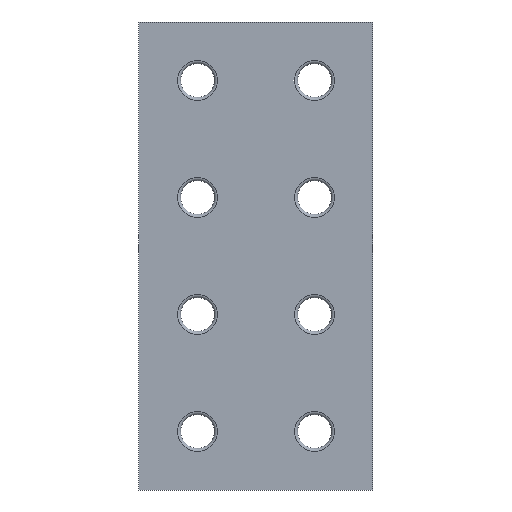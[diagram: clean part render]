
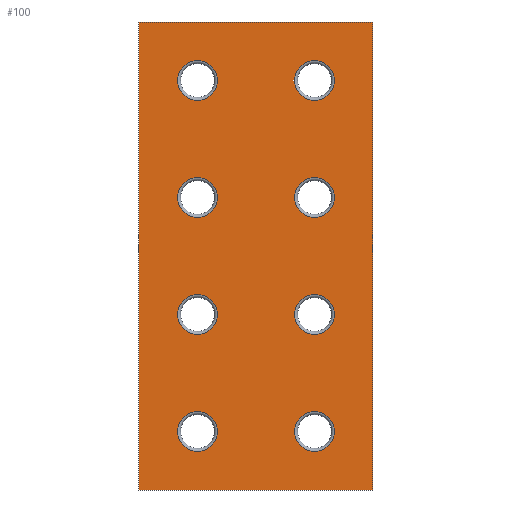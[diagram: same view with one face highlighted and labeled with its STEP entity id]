
A CAD part, left-side view. The second image highlights one B-rep face of the part: STEP entity #100.
In plain terms, the highlighted planar face has unit normal (-1, 0, 0).
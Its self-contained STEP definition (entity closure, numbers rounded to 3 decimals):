
#100 = ADVANCED_FACE( '', ( #237, #238, #239, #240, #241, #242, #243, #244, #245 ), #246, .F. );
#237 = FACE_BOUND( '', #438, .T. );
#238 = FACE_BOUND( '', #439, .T. );
#239 = FACE_BOUND( '', #440, .T. );
#240 = FACE_BOUND( '', #441, .T. );
#241 = FACE_BOUND( '', #442, .T. );
#242 = FACE_BOUND( '', #443, .T. );
#243 = FACE_BOUND( '', #444, .T. );
#244 = FACE_BOUND( '', #445, .T. );
#245 = FACE_OUTER_BOUND( '', #446, .T. );
#246 = PLANE( '', #447 );
#438 = EDGE_LOOP( '', ( #669 ) );
#439 = EDGE_LOOP( '', ( #670 ) );
#440 = EDGE_LOOP( '', ( #671 ) );
#441 = EDGE_LOOP( '', ( #672 ) );
#442 = EDGE_LOOP( '', ( #673 ) );
#443 = EDGE_LOOP( '', ( #674 ) );
#444 = EDGE_LOOP( '', ( #675 ) );
#445 = EDGE_LOOP( '', ( #676 ) );
#446 = EDGE_LOOP( '', ( #677, #678, #679, #680 ) );
#447 = AXIS2_PLACEMENT_3D( '', #681, #682, #683 );
#669 = ORIENTED_EDGE( '', *, *, #890, .T. );
#670 = ORIENTED_EDGE( '', *, *, #923, .T. );
#671 = ORIENTED_EDGE( '', *, *, #924, .T. );
#672 = ORIENTED_EDGE( '', *, *, #925, .T. );
#673 = ORIENTED_EDGE( '', *, *, #926, .T. );
#674 = ORIENTED_EDGE( '', *, *, #927, .T. );
#675 = ORIENTED_EDGE( '', *, *, #903, .T. );
#676 = ORIENTED_EDGE( '', *, *, #928, .T. );
#677 = ORIENTED_EDGE( '', *, *, #929, .F. );
#678 = ORIENTED_EDGE( '', *, *, #930, .F. );
#679 = ORIENTED_EDGE( '', *, *, #906, .F. );
#680 = ORIENTED_EDGE( '', *, *, #898, .F. );
#681 = CARTESIAN_POINT( '', ( -160., 0., 0. ) );
#682 = DIRECTION( '', ( 1., 0., 0. ) );
#683 = DIRECTION( '', ( 0., 1., 0. ) );
#890 = EDGE_CURVE( '', #1003, #1003, #1004, .T. );
#898 = EDGE_CURVE( '', #1016, #1017, #1018, .T. );
#903 = EDGE_CURVE( '', #1025, #1025, #1026, .T. );
#906 = EDGE_CURVE( '', #1017, #1030, #1031, .T. );
#923 = EDGE_CURVE( '', #1057, #1057, #1058, .T. );
#924 = EDGE_CURVE( '', #1059, #1059, #1060, .T. );
#925 = EDGE_CURVE( '', #1061, #1061, #1062, .T. );
#926 = EDGE_CURVE( '', #1063, #1063, #1064, .T. );
#927 = EDGE_CURVE( '', #1065, #1065, #1066, .T. );
#928 = EDGE_CURVE( '', #1067, #1067, #1068, .T. );
#929 = EDGE_CURVE( '', #1069, #1016, #1070, .T. );
#930 = EDGE_CURVE( '', #1030, #1069, #1071, .T. );
#1003 = VERTEX_POINT( '', #1165 );
#1004 = CIRCLE( '', #1166, 5.96 );
#1016 = VERTEX_POINT( '', #1178 );
#1017 = VERTEX_POINT( '', #1179 );
#1018 = LINE( '', #1180, #1181 );
#1025 = VERTEX_POINT( '', #1191 );
#1026 = CIRCLE( '', #1192, 5.96 );
#1030 = VERTEX_POINT( '', #1196 );
#1031 = LINE( '', #1197, #1198 );
#1057 = VERTEX_POINT( '', #1226 );
#1058 = CIRCLE( '', #1227, 5.96 );
#1059 = VERTEX_POINT( '', #1228 );
#1060 = CIRCLE( '', #1229, 5.96 );
#1061 = VERTEX_POINT( '', #1230 );
#1062 = CIRCLE( '', #1231, 5.96 );
#1063 = VERTEX_POINT( '', #1232 );
#1064 = CIRCLE( '', #1233, 5.96 );
#1065 = VERTEX_POINT( '', #1234 );
#1066 = CIRCLE( '', #1235, 5.96 );
#1067 = VERTEX_POINT( '', #1236 );
#1068 = CIRCLE( '', #1237, 5.96 );
#1069 = VERTEX_POINT( '', #1238 );
#1070 = LINE( '', #1239, #1240 );
#1071 = LINE( '', #1241, #1242 );
#1165 = CARTESIAN_POINT( '', ( -160., -11.54, -52.5 ) );
#1166 = AXIS2_PLACEMENT_3D( '', #1341, #1342, #1343 );
#1178 = CARTESIAN_POINT( '', ( -160., -35., -70. ) );
#1179 = CARTESIAN_POINT( '', ( -160., 35., -70. ) );
#1180 = CARTESIAN_POINT( '', ( -160., -35., -70. ) );
#1181 = VECTOR( '', #1356, 1000. );
#1191 = CARTESIAN_POINT( '', ( -160., 23.46, 17.5 ) );
#1192 = AXIS2_PLACEMENT_3D( '', #1360, #1361, #1362 );
#1196 = CARTESIAN_POINT( '', ( -160., 35., 70. ) );
#1197 = CARTESIAN_POINT( '', ( -160., 35., -70. ) );
#1198 = VECTOR( '', #1366, 1000. );
#1226 = CARTESIAN_POINT( '', ( -160., -11.54, -17.5 ) );
#1227 = AXIS2_PLACEMENT_3D( '', #1393, #1394, #1395 );
#1228 = CARTESIAN_POINT( '', ( -160., -11.54, 17.5 ) );
#1229 = AXIS2_PLACEMENT_3D( '', #1396, #1397, #1398 );
#1230 = CARTESIAN_POINT( '', ( -160., -11.54, 52.5 ) );
#1231 = AXIS2_PLACEMENT_3D( '', #1399, #1400, #1401 );
#1232 = CARTESIAN_POINT( '', ( -160., 23.46, -52.5 ) );
#1233 = AXIS2_PLACEMENT_3D( '', #1402, #1403, #1404 );
#1234 = CARTESIAN_POINT( '', ( -160., 23.46, -17.5 ) );
#1235 = AXIS2_PLACEMENT_3D( '', #1405, #1406, #1407 );
#1236 = CARTESIAN_POINT( '', ( -160., 23.46, 52.5 ) );
#1237 = AXIS2_PLACEMENT_3D( '', #1408, #1409, #1410 );
#1238 = CARTESIAN_POINT( '', ( -160., -35., 70. ) );
#1239 = CARTESIAN_POINT( '', ( -160., -35., 70. ) );
#1240 = VECTOR( '', #1411, 1000. );
#1241 = CARTESIAN_POINT( '', ( -160., 35., 70. ) );
#1242 = VECTOR( '', #1412, 1000. );
#1341 = CARTESIAN_POINT( '', ( -160., -17.5, -52.5 ) );
#1342 = DIRECTION( '', ( 1., 0., 0. ) );
#1343 = DIRECTION( '', ( 0., 1., 0. ) );
#1356 = DIRECTION( '', ( 0., 1., 0. ) );
#1360 = CARTESIAN_POINT( '', ( -160., 17.5, 17.5 ) );
#1361 = DIRECTION( '', ( 1., 0., 0. ) );
#1362 = DIRECTION( '', ( 0., 1., 0. ) );
#1366 = DIRECTION( '', ( 0., 0., 1. ) );
#1393 = CARTESIAN_POINT( '', ( -160., -17.5, -17.5 ) );
#1394 = DIRECTION( '', ( 1., 0., 0. ) );
#1395 = DIRECTION( '', ( 0., 1., 0. ) );
#1396 = CARTESIAN_POINT( '', ( -160., -17.5, 17.5 ) );
#1397 = DIRECTION( '', ( 1., 0., 0. ) );
#1398 = DIRECTION( '', ( 0., 1., 0. ) );
#1399 = CARTESIAN_POINT( '', ( -160., -17.5, 52.5 ) );
#1400 = DIRECTION( '', ( 1., 0., 0. ) );
#1401 = DIRECTION( '', ( 0., 1., 0. ) );
#1402 = CARTESIAN_POINT( '', ( -160., 17.5, -52.5 ) );
#1403 = DIRECTION( '', ( 1., 0., 0. ) );
#1404 = DIRECTION( '', ( 0., 1., 0. ) );
#1405 = CARTESIAN_POINT( '', ( -160., 17.5, -17.5 ) );
#1406 = DIRECTION( '', ( 1., 0., 0. ) );
#1407 = DIRECTION( '', ( 0., 1., 0. ) );
#1408 = CARTESIAN_POINT( '', ( -160., 17.5, 52.5 ) );
#1409 = DIRECTION( '', ( 1., 0., 0. ) );
#1410 = DIRECTION( '', ( 0., 1., 0. ) );
#1411 = DIRECTION( '', ( 0., 0., -1. ) );
#1412 = DIRECTION( '', ( 0., -1., 0. ) );
